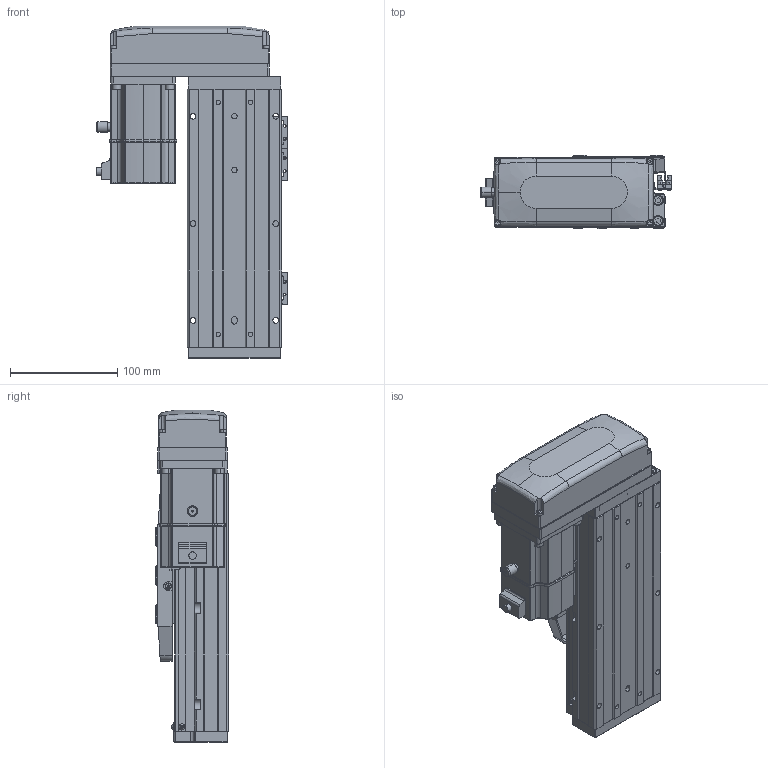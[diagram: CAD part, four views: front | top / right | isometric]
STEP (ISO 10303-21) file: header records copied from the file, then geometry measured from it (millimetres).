
FILE_DESCRIPTION (( 'STEP AP203' ), '1' );
FILE_NAME ('CTHA86-50-BR-M20-C4L.step', '2022-04-26T01:00:08', ( '微软用户' ), ( '微软中国' ), 'SwSTEP 2.0', 'SolidWorks 2020', '' );
FILE_SCHEMA (( 'CONFIG_CONTROL_DESIGN' ));
Length unit declared in the file: millimetre
Products named in the file (21): GBT 70.1-M3×20; CTHA86-031; GBT70.1 M5℅16; CTHA86-030; KTHA86-001_240; GBT 70.1-M3×16; GBT 70.3-M3℅6; EE_SX911P_R; KTHA86-004; GBT 70.1-M3℅6; CTHA86-015-1_CTHA86-015-2; CTHA60-017; KTHA86-005; CTHA60-016; CTHA86-033; CTHA60-021; GB¨uT 70.2-M3¡Á5_M3¡Á6; _X2_4E0983F1_X0_200W_1; CTHA86-50-BR-M20-C4L; GBT77-2000 M3×3; CTHA86-002
Assembly tree (66 placements, depth 2):
  CTHA86-50-BR-M20-C4L
    KTHA86-001_240
    KTHA86-004
    KTHA86-005
    GB¨uT 70.2-M3¡Á5_M3¡Á6  x10
    EE_SX911P_R  x3
    CTHA60-017  x3
    CTHA60-021  x2
    GBT77-2000 M3×3  x6
    GBT 70.1-M3×20
    GBT70.1 M5℅16  x14
    GBT 70.1-M3×16  x5
    GBT 70.1-M3℅6  x6
    CTHA60-016  x2
    _X2_4E0983F1_X0_200W_1
    CTHA86-002
    CTHA86-031
    CTHA86-030  x2
    GBT 70.3-M3℅6  x4
    CTHA86-015-1_CTHA86-015-2
    CTHA86-033
Bounding box: 178.52 x 68 x 309 mm (x, y, z)
Volume: 1745355.9 mm3; surface area: 326154.2 mm2
Topology: 68 solids, 68 shells, 2666 faces, 6316 edges, 3880 vertices
Faces by surface type: plane 1391, cylinder 687, cone 357, torus 132, bspline 75, sphere 24
Entity records: 45205 total; most frequent: CARTESIAN_POINT 8835, DIRECTION 6969, ORIENTED_EDGE 6732, EDGE_CURVE 3366, AXIS2_PLACEMENT_3D 2398, LINE 2173, VECTOR 2173, VERTEX_POINT 2112
